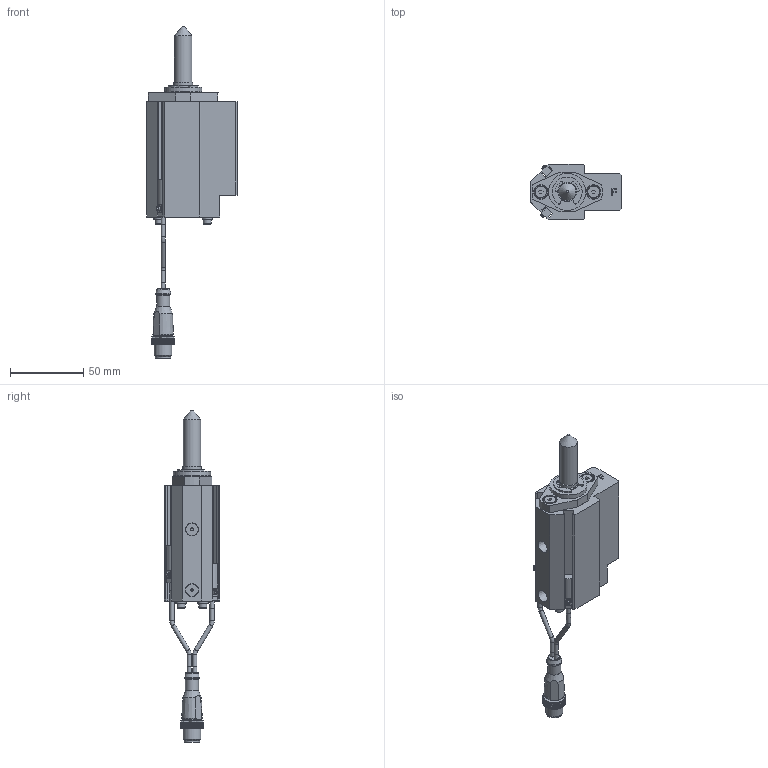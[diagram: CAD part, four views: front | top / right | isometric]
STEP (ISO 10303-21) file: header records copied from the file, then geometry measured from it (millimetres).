
FILE_DESCRIPTION(/* description */ ('NAAMS FLOATING MICRO PIN'),/* implementation_level */ '2;1');
FILE_NAME(/* name */ 'C:\Vault Workspace\CAD\Welker\Shot Pin\NMP\NMP120032AFNL3.stp',/* time_stamp */ '2021-01-27T10:38:41-05:00',/* author */ ('WELKER'),/* organization */ (''),/* preprocessor_version */ 'ST-DEVELOPER v18.1',/* originating_system */ 'Autodesk Inventor 2020',/* authorisation */ '');
FILE_SCHEMA (('AUTOMOTIVE_DESIGN { 1 0 10303 214 3 1 1 }'));
Length unit declared in the file: millimetre
Products named in the file (16): NMPL01; NMP L3 SWITCH; L3 Connector; L3 Sensor 1; L3 Sensor 2; L3 Sensor cable; L3 Sensor cable 2; M3X0.5-8 SHCS; NL3; NMPE06; NMPE03; NMPE05-DIA-LENGTH; 985432A218; NMPE01F-PORT; RMPE02; M5X5 SHOULDER
Assembly tree (22 placements, depth 3):
  NMPL01
    NMP L3 SWITCH
      L3 Connector
      L3 Sensor 1
      L3 Sensor 2
      L3 Sensor cable
      L3 Sensor cable 2
    M3X0.5-8 SHCS  x4
    NL3  x4
    NMPE06
    NMPE03
    NMPE05-DIA-LENGTH
    985432A218
    NMPE01F-PORT
    RMPE02
    M5X5 SHOULDER  x2
Bounding box: 62 x 38.1 x 227.12 mm (x, y, z)
Volume: 115333.3 mm3; surface area: 45607.4 mm2
Topology: 21 solids, 21 shells, 746 faces, 2022 edges, 1352 vertices
Faces by surface type: plane 551, cylinder 144, cone 35, torus 11, sphere 3, bspline 2
Full cylindrical faces by diameter (mm): 2 x2, 2.459 x4, 2.9 x10, 3 x5, 3.242 x2, 3.4 x4, 4 x2, 5 x6, 5.5 x4, 7 x4, 8 x2, 8.3 x2, 8.376 x2, 9 x3, 10 x3, 10.4 x1, 10.5 x1, 12 x2, 13 x3, 16 x2, 19.05 x3, 21 x1, 22.5 x1, 23.672 x1, 24 x1, 25.4 x1, 25.5 x1, 26.5 x1, 28.677 x1, 29.21 x1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
Entity records: 22784 total; most frequent: CARTESIAN_POINT 4167, ORIENTED_EDGE 3738, DIRECTION 3725, EDGE_CURVE 1869, LINE 1381, VECTOR 1381, VERTEX_POINT 1257, AXIS2_PLACEMENT_3D 1172
